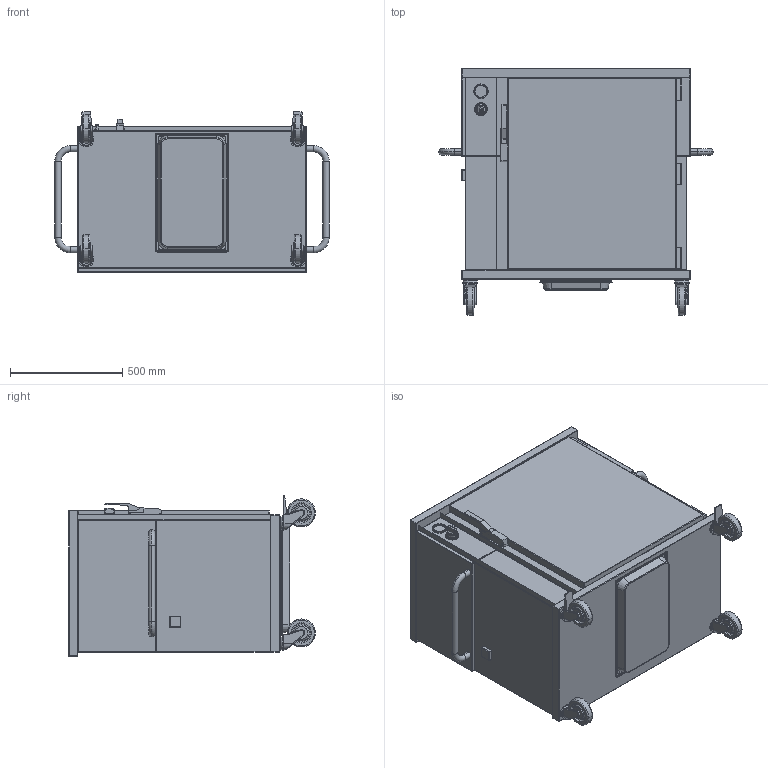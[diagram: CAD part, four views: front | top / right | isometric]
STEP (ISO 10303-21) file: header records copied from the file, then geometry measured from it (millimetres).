
FILE_DESCRIPTION((''),'2;1');
FILE_NAME('CTFE1020CTE_EXPORT_STEP_ASM','2019-04-03T11:39:30',('r.avril'),(''),'CREO PARAMETRIC BY PTC INC, 2017260','CREO PARAMETRIC BY PTC INC, 2017260','');
FILE_SCHEMA(('AP203_CONFIGURATION_CONTROLLED_3D_DESIGN_OF_MECHANICAL_PARTS_AND_ASSEMBLIES_MIM_LF { 1 0 10303 403 2 1 2 }'));
Length unit declared in the file: millimetre
Products named in the file (8): CTFE1020CTE_EXPORT_STEP; 65149010; 65149009; MANETTE_AMB_EXPORT_STEP; 65224012; 6532023POIGNEE; 6532645; CTFE1020CTE_EXPORT_STEP_ASM
Assembly tree (9 placements, depth 2):
  CTFE1020CTE_EXPORT_STEP_ASM
    CTFE1020CTE_EXPORT_STEP
    65149010  x2
    65149009  x2
    MANETTE_AMB_EXPORT_STEP
    65224012
    6532023POIGNEE
    6532645
Bounding box: 1223 x 1100 x 714.5 mm (x, y, z)
Volume: 585158753.4 mm3; surface area: 10041329.2 mm2
Topology: 11 solids, 11 shells, 874 faces, 1998 edges, 1195 vertices
Faces by surface type: cylinder 351, plane 301, torus 106, cone 50, sphere 46, bspline 20
Entity records: 23789 total; most frequent: CARTESIAN_POINT 4698, DIRECTION 3682, ORIENTED_EDGE 3132, EDGE_CURVE 1566, AXIS2_PLACEMENT_3D 1431, VERTEX_POINT 933, VECTOR 796, LINE 796
